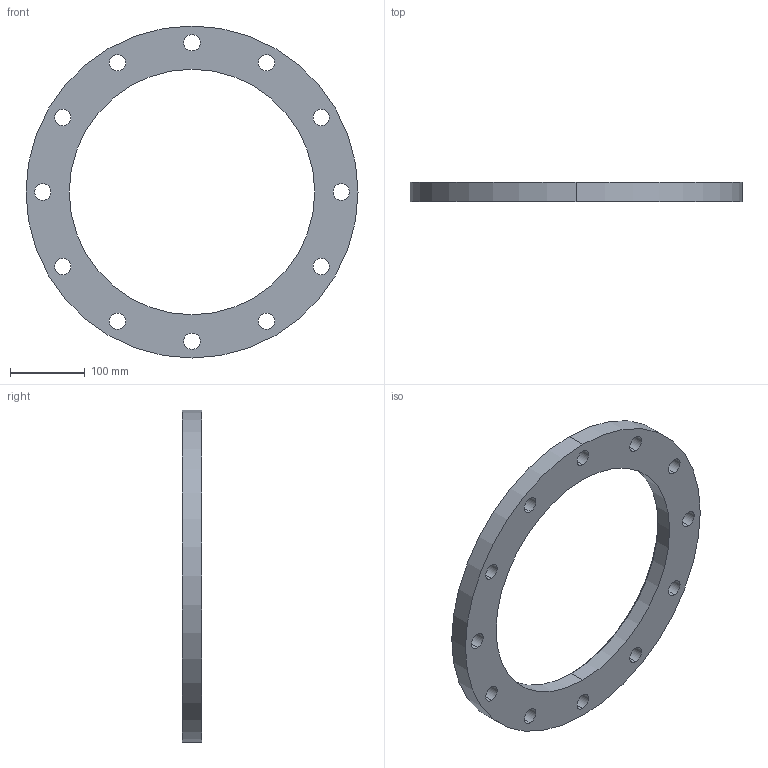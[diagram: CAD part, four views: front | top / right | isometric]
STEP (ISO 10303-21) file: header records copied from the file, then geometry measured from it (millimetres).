
FILE_DESCRIPTION (( 'STEP AP203' ), '1' );
FILE_NAME ('3D_R189_PN10_DN323.9_17669390.STEP', '2024-08-12T10:57:40', ( '' ), ( '' ), 'SwSTEP 2.0', 'SolidWorks 2024', '' );
FILE_SCHEMA (( 'CONFIG_CONTROL_DESIGN' ));
Length unit declared in the file: millimetre
Products named in the file (1): 3D_R189_PN10_DN323.9_17669390
Bounding box: 445 x 26 x 445 mm (x, y, z)
Volume: 1706483.8 mm3; surface area: 214293.5 mm2
Topology: 1 solids, 1 shells, 32 faces, 88 edges, 58 vertices
Faces by surface type: cylinder 28, cone 2, plane 2
Entity records: 1183 total; most frequent: DIRECTION 212, CARTESIAN_POINT 179, ORIENTED_EDGE 176, AXIS2_PLACEMENT_3D 91, EDGE_CURVE 88, CIRCLE 58, EDGE_LOOP 58, VERTEX_POINT 58
